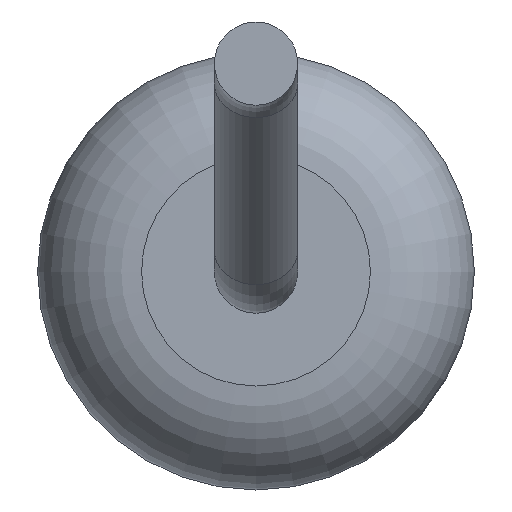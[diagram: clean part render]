
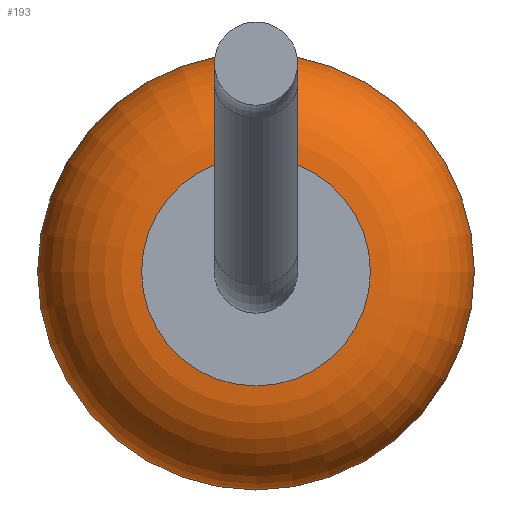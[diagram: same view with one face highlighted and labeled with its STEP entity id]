
A CAD part, left-side view. The second image highlights one B-rep face of the part: STEP entity #193.
In plain terms, the highlighted toroidal (fillet/blend) face has major radius 1.1 mm and minor radius 1 mm.
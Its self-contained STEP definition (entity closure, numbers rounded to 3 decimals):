
#193=ADVANCED_FACE('',(#398,#400),#402,.T.);
#398=FACE_OUTER_BOUND('',#399,.T.);
#399=EDGE_LOOP('',(#497));
#400=FACE_OUTER_BOUND('',#401,.T.);
#401=EDGE_LOOP('',(#498));
#402=TOROIDAL_SURFACE('',#403,1.1,1.);
#403=AXIS2_PLACEMENT_3D('',#404,#405,#406);
#404=CARTESIAN_POINT('',(-4.1,0.,0.));
#405=DIRECTION('',(-1.,0.,0.));
#406=DIRECTION('',(0.,0.,1.));
#497=ORIENTED_EDGE('',*,*,#526,.T.);
#498=ORIENTED_EDGE('',*,*,#527,.F.);
#526=EDGE_CURVE('',#562,#562,#563,.T.);
#527=EDGE_CURVE('',#564,#564,#565,.T.);
#562=VERTEX_POINT('',#648);
#563=CIRCLE('',#649,2.1);
#564=VERTEX_POINT('',#653);
#565=CIRCLE('',#654,1.1);
#648=CARTESIAN_POINT('',(-4.1,0.,2.1));
#649=AXIS2_PLACEMENT_3D('',#650,#651,#652);
#650=CARTESIAN_POINT('',(-4.1,0.,0.));
#651=DIRECTION('',(-1.,0.,0.));
#652=DIRECTION('',(0.,0.,1.));
#653=CARTESIAN_POINT('',(-5.1,0.,1.1));
#654=AXIS2_PLACEMENT_3D('',#655,#656,#657);
#655=CARTESIAN_POINT('',(-5.1,0.,0.));
#656=DIRECTION('',(-1.,0.,0.));
#657=DIRECTION('',(0.,0.,1.));
